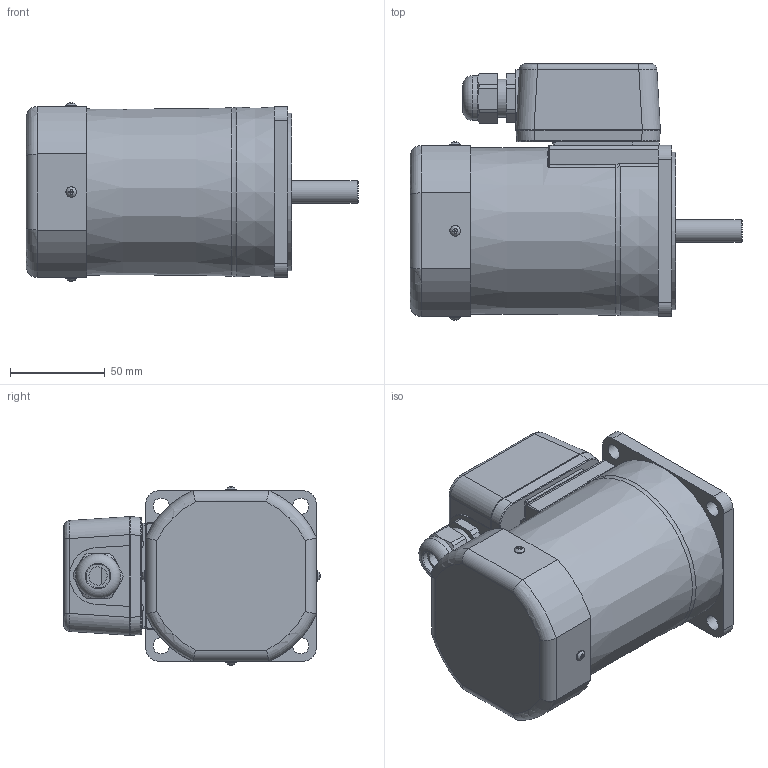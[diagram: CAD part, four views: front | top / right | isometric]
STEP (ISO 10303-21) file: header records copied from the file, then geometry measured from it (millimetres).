
FILE_DESCRIPTION(/* description */ (''),/* implementation_level */ '2;1');
FILE_NAME(/* name */ 'E:\도면작업\2016\0704) 미주향 SG 도면\3D MOTOR\TERMINAL BOX TYPE\INDUCTION TERMINAL BOX\SG9I90S_-T.stp',/* time_stamp */ '2017-01-23T19:21:40+09:00',/* author */ ('jy-jung'),/* organization */ (''),/* preprocessor_version */ 'ST-DEVELOPER v15.6',/* originating_system */ 'Autodesk Inventor 2015',/* authorisation */ '');
FILE_SCHEMA (('AUTOMOTIVE_DESIGN { 1 0 10303 214 3 1 1 }'));
Length unit declared in the file: millimetre
Products named in the file (1): 부품2
Bounding box: 174.8 x 134.95 x 93.89 mm (x, y, z)
Volume: 1089055.1 mm3; surface area: 83568.9 mm2
Topology: 1 solids, 13 shells, 467 faces, 1161 edges, 740 vertices
Faces by surface type: plane 249, cylinder 120, bspline 56, torus 33, cone 9
Full cylindrical faces by diameter (mm): 2.55 x2, 3 x4, 3.5 x4, 5.6 x8, 6.3 x4, 8.5 x4, 12 x1, 12.5 x1, 15 x1, 20 x2, 21 x1, 23.6 x1, 40 x1, 83 x1
Entity records: 15885 total; most frequent: CARTESIAN_POINT 4965, ORIENTED_EDGE 2164, DIRECTION 2018, EDGE_CURVE 1082, VERTEX_POINT 727, AXIS2_PLACEMENT_3D 724, LINE 570, VECTOR 570
